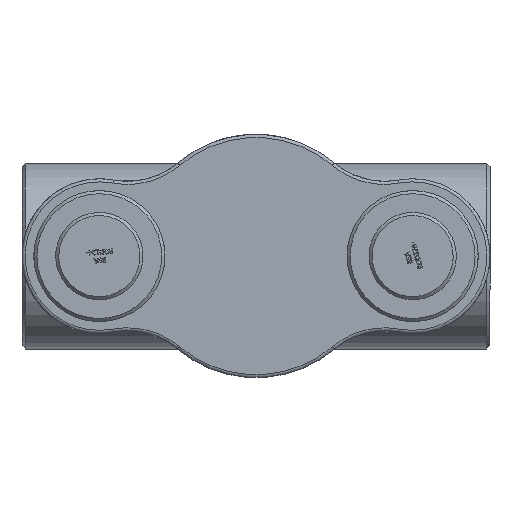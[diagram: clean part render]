
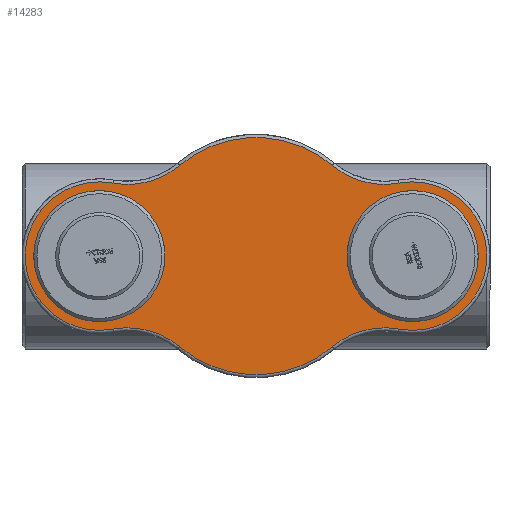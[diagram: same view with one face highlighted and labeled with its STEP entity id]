
A CAD part, front view. The second image highlights one B-rep face of the part: STEP entity #14283.
In plain terms, the highlighted planar face has unit normal (0, -1, 0) as drawn and (0, 0, -1) by its records, which use the part's own axes.
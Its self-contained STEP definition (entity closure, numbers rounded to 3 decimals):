
#3747=PLANE('',#15201);
#4198=FACE_BOUND('',#5129,.T.);
#4199=FACE_BOUND('',#5130,.T.);
#4299=FACE_OUTER_BOUND('',#5128,.T.);
#5128=EDGE_LOOP('',(#9894,#9895,#9896,#9897,#9898,#9899,#9900,#9901));
#5129=EDGE_LOOP('',(#9902));
#5130=EDGE_LOOP('',(#9903));
#6056=CIRCLE('',#15200,78.);
#6057=CIRCLE('',#15202,119.);
#6058=CIRCLE('',#15203,129.);
#6059=CIRCLE('',#15204,190.);
#6060=CIRCLE('',#15205,129.);
#6061=CIRCLE('',#15206,119.);
#6062=CIRCLE('',#15207,129.);
#6063=CIRCLE('',#15208,190.);
#6064=CIRCLE('',#15209,129.);
#6065=CIRCLE('',#15210,78.);
#6252=VERTEX_POINT('',#18885);
#6253=VERTEX_POINT('',#18888);
#6254=VERTEX_POINT('',#18889);
#6255=VERTEX_POINT('',#18891);
#6256=VERTEX_POINT('',#18893);
#6257=VERTEX_POINT('',#18895);
#6258=VERTEX_POINT('',#18897);
#6259=VERTEX_POINT('',#18899);
#6260=VERTEX_POINT('',#18901);
#6261=VERTEX_POINT('',#18904);
#7708=EDGE_CURVE('',#6252,#6252,#6056,.T.);
#7709=EDGE_CURVE('',#6253,#6254,#6057,.T.);
#7710=EDGE_CURVE('',#6255,#6253,#6058,.T.);
#7711=EDGE_CURVE('',#6256,#6255,#6059,.T.);
#7712=EDGE_CURVE('',#6257,#6256,#6060,.T.);
#7713=EDGE_CURVE('',#6258,#6257,#6061,.T.);
#7714=EDGE_CURVE('',#6259,#6258,#6062,.T.);
#7715=EDGE_CURVE('',#6260,#6259,#6063,.T.);
#7716=EDGE_CURVE('',#6254,#6260,#6064,.T.);
#7717=EDGE_CURVE('',#6261,#6261,#6065,.T.);
#9894=ORIENTED_EDGE('',*,*,#7709,.F.);
#9895=ORIENTED_EDGE('',*,*,#7710,.F.);
#9896=ORIENTED_EDGE('',*,*,#7711,.F.);
#9897=ORIENTED_EDGE('',*,*,#7712,.F.);
#9898=ORIENTED_EDGE('',*,*,#7713,.F.);
#9899=ORIENTED_EDGE('',*,*,#7714,.F.);
#9900=ORIENTED_EDGE('',*,*,#7715,.F.);
#9901=ORIENTED_EDGE('',*,*,#7716,.F.);
#9902=ORIENTED_EDGE('',*,*,#7717,.F.);
#9903=ORIENTED_EDGE('',*,*,#7708,.F.);
#14283=ADVANCED_FACE('',(#4299,#4198,#4199),#3747,.F.);
#15200=AXIS2_PLACEMENT_3D('',#18886,#15985,#15986);
#15201=AXIS2_PLACEMENT_3D('',#18887,#15987,#15988);
#15202=AXIS2_PLACEMENT_3D('',#18890,#15989,#15990);
#15203=AXIS2_PLACEMENT_3D('',#18892,#15991,#15992);
#15204=AXIS2_PLACEMENT_3D('',#18894,#15993,#15994);
#15205=AXIS2_PLACEMENT_3D('',#18896,#15995,#15996);
#15206=AXIS2_PLACEMENT_3D('',#18898,#15997,#15998);
#15207=AXIS2_PLACEMENT_3D('',#18900,#15999,#16000);
#15208=AXIS2_PLACEMENT_3D('',#18902,#16001,#16002);
#15209=AXIS2_PLACEMENT_3D('',#18903,#16003,#16004);
#15210=AXIS2_PLACEMENT_3D('',#18905,#16005,#16006);
#15985=DIRECTION('center_axis',(0.,0.,-1.));
#15986=DIRECTION('ref_axis',(1.,0.,0.));
#15987=DIRECTION('center_axis',(0.,0.,1.));
#15988=DIRECTION('ref_axis',(1.,0.,0.));
#15989=DIRECTION('center_axis',(0.,0.,1.));
#15990=DIRECTION('ref_axis',(-1.,0.,0.));
#15991=DIRECTION('center_axis',(0.,0.,-1.));
#15992=DIRECTION('ref_axis',(0.256,-0.967,0.));
#15993=DIRECTION('center_axis',(0.,0.,1.));
#15994=DIRECTION('ref_axis',(0.,1.,0.));
#15995=DIRECTION('center_axis',(0.,0.,-1.));
#15996=DIRECTION('ref_axis',(-0.256,-0.967,0.));
#15997=DIRECTION('center_axis',(0.,0.,1.));
#15998=DIRECTION('ref_axis',(1.,0.,0.));
#15999=DIRECTION('center_axis',(0.,0.,-1.));
#16000=DIRECTION('ref_axis',(-0.256,0.967,0.));
#16001=DIRECTION('center_axis',(0.,0.,1.));
#16002=DIRECTION('ref_axis',(0.,-1.,0.));
#16003=DIRECTION('center_axis',(0.,0.,-1.));
#16004=DIRECTION('ref_axis',(0.256,0.967,0.));
#16005=DIRECTION('center_axis',(0.,0.,-1.));
#16006=DIRECTION('ref_axis',(1.,0.,0.));
#18885=CARTESIAN_POINT('',(173.,0.,0.));
#18886=CARTESIAN_POINT('Origin',(251.,0.,0.));
#18887=CARTESIAN_POINT('Origin',(0.,0.,0.));
#18888=CARTESIAN_POINT('',(-229.26,116.997,0.));
#18889=CARTESIAN_POINT('',(-229.26,-116.997,0.));
#18890=CARTESIAN_POINT('Origin',(-251.,0.,0.));
#18891=CARTESIAN_POINT('',(-122.513,145.226,0.));
#18892=CARTESIAN_POINT('Origin',(-205.693,243.826,0.));
#18893=CARTESIAN_POINT('',(122.513,145.226,0.));
#18894=CARTESIAN_POINT('Origin',(0.,0.,0.));
#18895=CARTESIAN_POINT('',(229.26,116.997,0.));
#18896=CARTESIAN_POINT('Origin',(205.693,243.826,0.));
#18897=CARTESIAN_POINT('',(229.26,-116.997,0.));
#18898=CARTESIAN_POINT('Origin',(251.,0.,0.));
#18899=CARTESIAN_POINT('',(122.513,-145.226,0.));
#18900=CARTESIAN_POINT('Origin',(205.693,-243.826,0.));
#18901=CARTESIAN_POINT('',(-122.513,-145.226,0.));
#18902=CARTESIAN_POINT('Origin',(0.,0.,0.));
#18903=CARTESIAN_POINT('Origin',(-205.693,-243.826,0.));
#18904=CARTESIAN_POINT('',(-329.,0.,0.));
#18905=CARTESIAN_POINT('Origin',(-251.,0.,0.));
